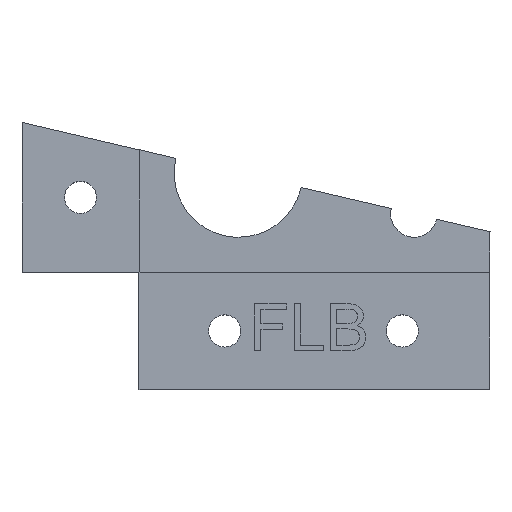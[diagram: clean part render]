
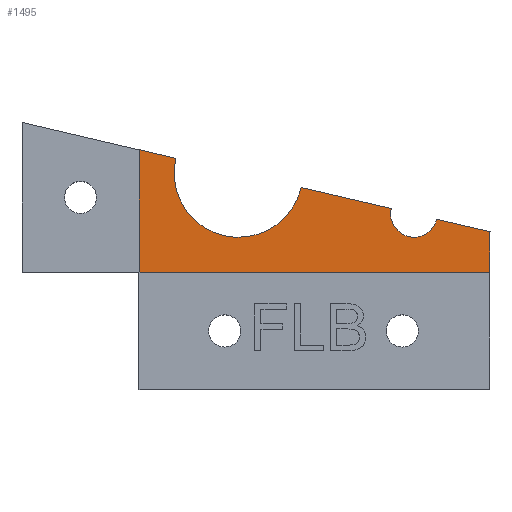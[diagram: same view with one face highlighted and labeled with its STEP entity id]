
A CAD part, top view. The second image highlights one B-rep face of the part: STEP entity #1495.
In plain terms, the highlighted planar face has unit normal (0, 0, 1) as drawn and (0, -1, 0) by its records, which use the part's own axes.
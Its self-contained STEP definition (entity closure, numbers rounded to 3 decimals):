
#41=CIRCLE('',#1580,4.);
#42=CIRCLE('',#1581,11.);
#195=FACE_OUTER_BOUND('',#281,.T.);
#281=EDGE_LOOP('',(#1280,#1281,#1282,#1283,#1284,#1285,#1286,#1287));
#419=LINE('',#2676,#565);
#420=LINE('',#2680,#566);
#421=LINE('',#2684,#567);
#422=LINE('',#2686,#568);
#423=LINE('',#2688,#569);
#424=LINE('',#2689,#570);
#565=VECTOR('',#1825,10.);
#566=VECTOR('',#1828,10.);
#567=VECTOR('',#1831,10.);
#568=VECTOR('',#1832,10.);
#569=VECTOR('',#1833,10.);
#570=VECTOR('',#1834,10.);
#715=VERTEX_POINT('',#2674);
#716=VERTEX_POINT('',#2675);
#717=VERTEX_POINT('',#2677);
#718=VERTEX_POINT('',#2679);
#719=VERTEX_POINT('',#2681);
#720=VERTEX_POINT('',#2683);
#721=VERTEX_POINT('',#2685);
#722=VERTEX_POINT('',#2687);
#914=EDGE_CURVE('',#715,#716,#419,.T.);
#915=EDGE_CURVE('',#717,#715,#41,.T.);
#916=EDGE_CURVE('',#718,#717,#420,.T.);
#917=EDGE_CURVE('',#719,#718,#42,.T.);
#918=EDGE_CURVE('',#720,#719,#421,.T.);
#919=EDGE_CURVE('',#721,#720,#422,.T.);
#920=EDGE_CURVE('',#722,#721,#423,.T.);
#921=EDGE_CURVE('',#716,#722,#424,.T.);
#1280=ORIENTED_EDGE('',*,*,#914,.F.);
#1281=ORIENTED_EDGE('',*,*,#915,.F.);
#1282=ORIENTED_EDGE('',*,*,#916,.F.);
#1283=ORIENTED_EDGE('',*,*,#917,.F.);
#1284=ORIENTED_EDGE('',*,*,#918,.F.);
#1285=ORIENTED_EDGE('',*,*,#919,.F.);
#1286=ORIENTED_EDGE('',*,*,#920,.F.);
#1287=ORIENTED_EDGE('',*,*,#921,.F.);
#1421=PLANE('',#1579);
#1495=ADVANCED_FACE('',(#195),#1421,.F.);
#1579=AXIS2_PLACEMENT_3D('',#2673,#1823,#1824);
#1580=AXIS2_PLACEMENT_3D('',#2678,#1826,#1827);
#1581=AXIS2_PLACEMENT_3D('',#2682,#1829,#1830);
#1823=DIRECTION('center_axis',(0.,1.,0.));
#1824=DIRECTION('ref_axis',(-1.,0.,0.));
#1825=DIRECTION('',(-0.227,0.,-0.974));
#1826=DIRECTION('center_axis',(0.,-1.,0.));
#1827=DIRECTION('ref_axis',(-1.,0.,0.));
#1828=DIRECTION('',(-0.227,0.,-0.974));
#1829=DIRECTION('center_axis',(0.,-1.,0.));
#1830=DIRECTION('ref_axis',(-1.,0.,0.));
#1831=DIRECTION('',(-0.227,0.,-0.974));
#1832=DIRECTION('',(1.,0.,0.));
#1833=DIRECTION('',(0.,0.,1.));
#1834=DIRECTION('',(-1.,0.,0.));
#2673=CARTESIAN_POINT('Origin',(-305.,14.518,-30.));
#2674=CARTESIAN_POINT('',(-300.909,14.518,-60.895));
#2675=CARTESIAN_POINT('',(-303.033,14.518,-70.));
#2676=CARTESIAN_POINT('',(-298.658,14.518,-51.25));
#2677=CARTESIAN_POINT('',(-299.091,14.518,-53.105));
#2678=CARTESIAN_POINT('Origin',(-300.,14.518,-57.));
#2679=CARTESIAN_POINT('',(-295.5,14.518,-37.712));
#2680=CARTESIAN_POINT('',(-296.687,14.518,-42.803));
#2681=CARTESIAN_POINT('',(-290.5,14.518,-16.288));
#2682=CARTESIAN_POINT('Origin',(-293.,14.518,-27.));
#2683=CARTESIAN_POINT('',(-289.033,14.518,-10.));
#2684=CARTESIAN_POINT('',(-291.658,14.518,-21.25));
#2685=CARTESIAN_POINT('',(-310.,14.518,-10.));
#2686=CARTESIAN_POINT('',(-297.017,14.518,-10.));
#2687=CARTESIAN_POINT('',(-310.,14.518,-70.));
#2688=CARTESIAN_POINT('',(-310.,14.518,-20.));
#2689=CARTESIAN_POINT('',(-317.5,14.518,-70.));
